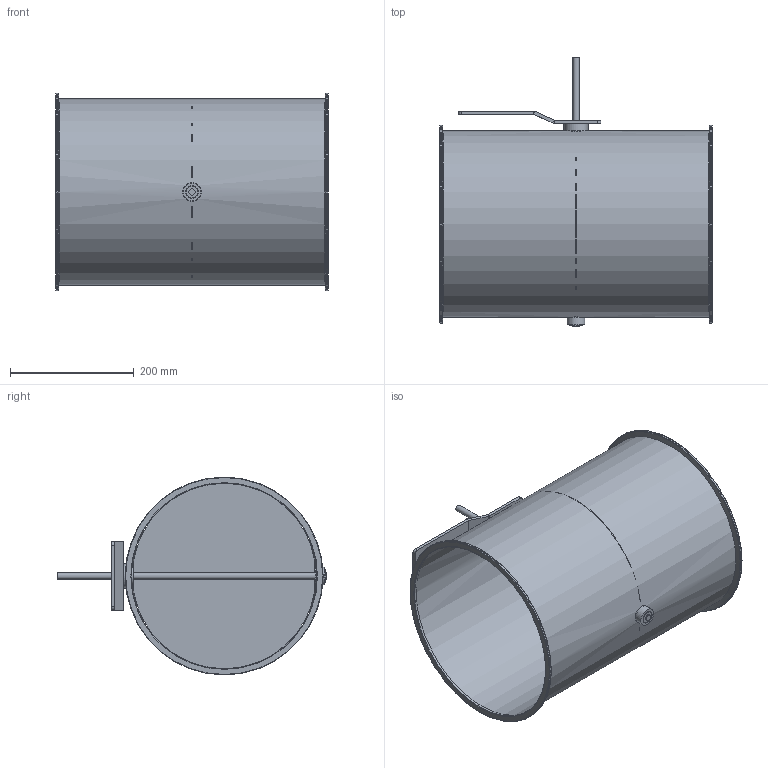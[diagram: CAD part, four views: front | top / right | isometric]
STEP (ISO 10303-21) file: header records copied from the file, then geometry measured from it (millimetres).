
FILE_DESCRIPTION(/* description */ (''),/* implementation_level */ '2;1');
FILE_NAME(/* name */ 'EA105-80B__300_L440_Belimo_Typen_NF_SF.stp',/* time_stamp */ '2017-12-06T15:11:53+01:00',/* author */ (''),/* organization */ (''),/* preprocessor_version */ 'ST-DEVELOPER v11',/* originating_system */ 'SIEMENS UGS NX 6.0',/* authorisation */ '');
FILE_SCHEMA (('CONFIG_CONTROL_DESIGN'));
Length unit declared in the file: millimetre
Products named in the file (1): gars18E2j2cb
Bounding box: 440 x 436 x 320 mm (x, y, z)
Volume: 671179.2 mm3; surface area: 1086001.3 mm2
Topology: 8 solids, 8 shells, 76 faces, 158 edges, 100 vertices
Faces by surface type: plane 36, cylinder 32, torus 6, cone 2
Full cylindrical faces by diameter (mm): 4.1 x4, 10 x3, 19 x3, 19.85 x2, 20 x2, 29 x1, 30 x2, 39 x1, 300 x1, 301.6 x1, 320 x2
Entity records: 1960 total; most frequent: CARTESIAN_POINT 353, DIRECTION 334, ORIENTED_EDGE 236, AXIS2_PLACEMENT_3D 143, EDGE_LOOP 132, EDGE_CURVE 118, FACE_BOUND 102, VERTEX_POINT 90
